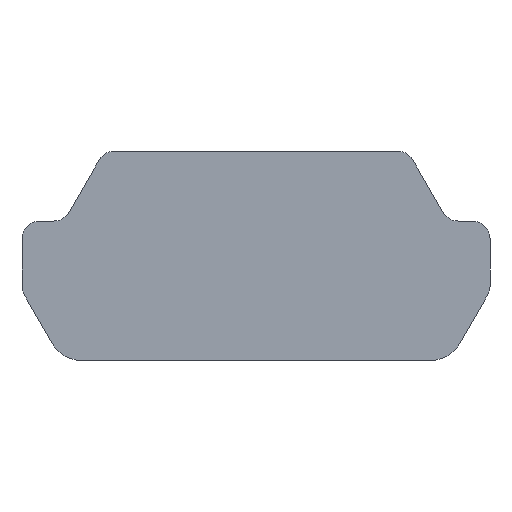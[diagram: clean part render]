
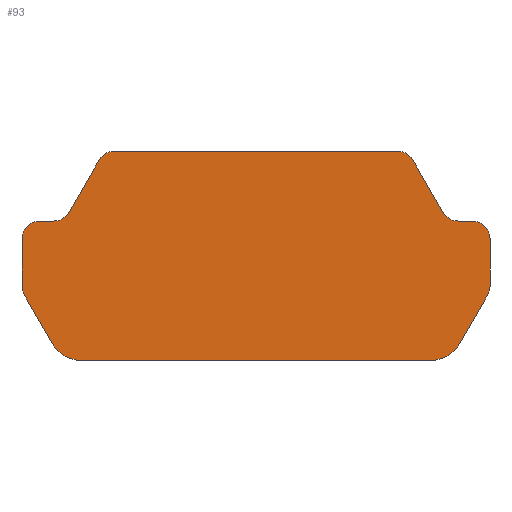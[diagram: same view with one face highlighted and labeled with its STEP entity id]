
A CAD part, front view. The second image highlights one B-rep face of the part: STEP entity #93.
In plain terms, the highlighted planar face has unit normal (0, -1, 0).
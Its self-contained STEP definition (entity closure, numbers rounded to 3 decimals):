
#93=ADVANCED_FACE('',(#198),#199,.T.);
#198=FACE_OUTER_BOUND('',#301,.T.);
#199=PLANE('',#302);
#301=EDGE_LOOP('',(#494,#495,#496,#497,#498,#499,#500,#501,#502,#503,#504,#505,#506,#507,#508,#509,#510,#511,#512,#513));
#302=AXIS2_PLACEMENT_3D('',#514,#515,#516);
#494=ORIENTED_EDGE('',*,*,#601,.F.);
#495=ORIENTED_EDGE('',*,*,#596,.F.);
#496=ORIENTED_EDGE('',*,*,#607,.F.);
#497=ORIENTED_EDGE('',*,*,#640,.F.);
#498=ORIENTED_EDGE('',*,*,#570,.F.);
#499=ORIENTED_EDGE('',*,*,#575,.F.);
#500=ORIENTED_EDGE('',*,*,#657,.F.);
#501=ORIENTED_EDGE('',*,*,#635,.F.);
#502=ORIENTED_EDGE('',*,*,#653,.F.);
#503=ORIENTED_EDGE('',*,*,#646,.F.);
#504=ORIENTED_EDGE('',*,*,#611,.F.);
#505=ORIENTED_EDGE('',*,*,#643,.F.);
#506=ORIENTED_EDGE('',*,*,#628,.F.);
#507=ORIENTED_EDGE('',*,*,#589,.F.);
#508=ORIENTED_EDGE('',*,*,#650,.F.);
#509=ORIENTED_EDGE('',*,*,#616,.F.);
#510=ORIENTED_EDGE('',*,*,#621,.F.);
#511=ORIENTED_EDGE('',*,*,#584,.F.);
#512=ORIENTED_EDGE('',*,*,#658,.F.);
#513=ORIENTED_EDGE('',*,*,#624,.F.);
#514=CARTESIAN_POINT('',(-5.789,-6.0,-3.1));
#515=DIRECTION('',(0.0,-1.0,0.0));
#516=DIRECTION('',(1.0,0.0,0.0));
#570=EDGE_CURVE('',#667,#668,#669,.T.);
#575=EDGE_CURVE('',#676,#667,#677,.T.);
#584=EDGE_CURVE('',#692,#693,#694,.T.);
#589=EDGE_CURVE('',#701,#702,#703,.T.);
#596=EDGE_CURVE('',#713,#714,#715,.T.);
#601=EDGE_CURVE('',#714,#722,#723,.T.);
#607=EDGE_CURVE('',#731,#713,#732,.T.);
#611=EDGE_CURVE('',#737,#738,#739,.T.);
#616=EDGE_CURVE('',#746,#747,#748,.T.);
#621=EDGE_CURVE('',#693,#746,#755,.T.);
#624=EDGE_CURVE('',#722,#758,#759,.T.);
#628=EDGE_CURVE('',#702,#764,#765,.T.);
#635=EDGE_CURVE('',#776,#777,#778,.T.);
#640=EDGE_CURVE('',#668,#731,#785,.T.);
#643=EDGE_CURVE('',#764,#737,#788,.T.);
#646=EDGE_CURVE('',#738,#791,#792,.T.);
#650=EDGE_CURVE('',#747,#701,#797,.T.);
#653=EDGE_CURVE('',#791,#776,#800,.T.);
#657=EDGE_CURVE('',#777,#676,#804,.T.);
#658=EDGE_CURVE('',#758,#692,#805,.T.);
#667=VERTEX_POINT('',#814);
#668=VERTEX_POINT('',#815);
#669=CIRCLE('',#816,0.5);
#676=VERTEX_POINT('',#825);
#677=LINE('',#826,#827);
#692=VERTEX_POINT('',#844);
#693=VERTEX_POINT('',#845);
#694=LINE('',#846,#847);
#701=VERTEX_POINT('',#857);
#702=VERTEX_POINT('',#858);
#703=LINE('',#859,#860);
#713=VERTEX_POINT('',#873);
#714=VERTEX_POINT('',#874);
#715=LINE('',#875,#876);
#722=VERTEX_POINT('',#886);
#723=CIRCLE('',#887,0.5);
#731=VERTEX_POINT('',#896);
#732=CIRCLE('',#897,0.5);
#737=VERTEX_POINT('',#903);
#738=VERTEX_POINT('',#904);
#739=CIRCLE('',#905,0.5);
#746=VERTEX_POINT('',#914);
#747=VERTEX_POINT('',#915);
#748=LINE('',#916,#917);
#755=CIRCLE('',#927,0.5);
#758=VERTEX_POINT('',#930);
#759=LINE('',#931,#932);
#764=VERTEX_POINT('',#939);
#765=CIRCLE('',#940,0.5);
#776=VERTEX_POINT('',#952);
#777=VERTEX_POINT('',#953);
#778=LINE('',#954,#955);
#785=LINE('',#965,#966);
#788=LINE('',#970,#971);
#791=VERTEX_POINT('',#975);
#792=LINE('',#976,#977);
#797=CIRCLE('',#984,0.5);
#800=CIRCLE('',#987,1.0);
#804=CIRCLE('',#991,1.);
#805=CIRCLE('',#992,0.5);
#814=CARTESIAN_POINT('',(-6.633,-6.0,-5.716));
#815=CARTESIAN_POINT('',(-6.7,-6.0,-5.466));
#816=AXIS2_PLACEMENT_3D('',#1000,#1001,#1002);
#825=CARTESIAN_POINT('',(-5.834,-6.0,-7.1));
#826=CARTESIAN_POINT('',(-5.834,-6.0,-7.1));
#827=VECTOR('',#1008,1.0);
#844=CARTESIAN_POINT('',(-4.057,-6.0,-1.6));
#845=CARTESIAN_POINT('',(4.057,-6.0,-1.6));
#846=CARTESIAN_POINT('',(-4.057,-6.0,-1.6));
#847=VECTOR('',#1026,1.0);
#857=CARTESIAN_POINT('',(5.789,-6.0,-3.6));
#858=CARTESIAN_POINT('',(6.2,-6.0,-3.6));
#859=CARTESIAN_POINT('',(5.789,-6.0,-3.6));
#860=VECTOR('',#1030,1.0);
#873=CARTESIAN_POINT('',(-6.2,-6.0,-3.6));
#874=CARTESIAN_POINT('',(-5.789,-6.0,-3.6));
#875=CARTESIAN_POINT('',(-6.2,-6.0,-3.6));
#876=VECTOR('',#1037,1.0);
#886=CARTESIAN_POINT('',(-5.356,-6.0,-3.35));
#887=AXIS2_PLACEMENT_3D('',#1041,#1042,#1043);
#896=CARTESIAN_POINT('',(-6.7,-6.0,-4.1));
#897=AXIS2_PLACEMENT_3D('',#1051,#1052,#1053);
#903=CARTESIAN_POINT('',(6.7,-6.0,-5.466));
#904=CARTESIAN_POINT('',(6.633,-6.0,-5.716));
#905=AXIS2_PLACEMENT_3D('',#1058,#1059,#1060);
#914=CARTESIAN_POINT('',(4.49,-6.0,-1.85));
#915=CARTESIAN_POINT('',(5.356,-6.0,-3.35));
#916=CARTESIAN_POINT('',(4.49,-6.0,-1.85));
#917=VECTOR('',#1066,1.0);
#927=AXIS2_PLACEMENT_3D('',#1070,#1071,#1072);
#930=CARTESIAN_POINT('',(-4.49,-6.0,-1.85));
#931=CARTESIAN_POINT('',(-5.356,-6.0,-3.35));
#932=VECTOR('',#1076,1.0);
#939=CARTESIAN_POINT('',(6.7,-6.0,-4.1));
#940=AXIS2_PLACEMENT_3D('',#1079,#1080,#1081);
#952=CARTESIAN_POINT('',(4.968,-6.0,-7.6));
#953=CARTESIAN_POINT('',(-4.968,-6.0,-7.6));
#954=CARTESIAN_POINT('',(4.968,-6.0,-7.6));
#955=VECTOR('',#1095,1.0);
#965=CARTESIAN_POINT('',(-6.7,-6.0,-5.466));
#966=VECTOR('',#1099,1.0);
#970=CARTESIAN_POINT('',(6.7,-6.0,-4.1));
#971=VECTOR('',#1101,1.0);
#975=CARTESIAN_POINT('',(5.834,-6.0,-7.1));
#976=CARTESIAN_POINT('',(6.633,-6.0,-5.716));
#977=VECTOR('',#1103,1.0);
#984=AXIS2_PLACEMENT_3D('',#1106,#1107,#1108);
#987=AXIS2_PLACEMENT_3D('',#1112,#1113,#1114);
#991=AXIS2_PLACEMENT_3D('',#1118,#1119,#1120);
#992=AXIS2_PLACEMENT_3D('',#1121,#1122,#1123);
#1000=CARTESIAN_POINT('',(-6.2,-6.0,-5.466));
#1001=DIRECTION('',(0.0,1.0,0.0));
#1002=DIRECTION('',(-1.0,0.0,0.0));
#1008=DIRECTION('',(-0.5,0.0,0.866));
#1026=DIRECTION('',(1.0,0.0,0.0));
#1030=DIRECTION('',(1.0,0.0,0.0));
#1037=DIRECTION('',(1.0,0.0,0.0));
#1041=CARTESIAN_POINT('',(-5.789,-6.0,-3.1));
#1042=DIRECTION('',(0.0,-1.0,0.0));
#1043=DIRECTION('',(1.0,0.0,0.0));
#1051=CARTESIAN_POINT('',(-6.2,-6.0,-4.1));
#1052=DIRECTION('',(0.0,1.0,0.0));
#1053=DIRECTION('',(-1.0,0.0,0.0));
#1058=CARTESIAN_POINT('',(6.2,-6.0,-5.466));
#1059=DIRECTION('',(0.0,1.0,0.0));
#1060=DIRECTION('',(-1.0,0.0,0.0));
#1066=DIRECTION('',(0.5,0.0,-0.866));
#1070=CARTESIAN_POINT('',(4.057,-6.0,-2.1));
#1071=DIRECTION('',(0.0,1.0,0.0));
#1072=DIRECTION('',(-1.0,0.0,0.0));
#1076=DIRECTION('',(0.5,0.0,0.866));
#1079=CARTESIAN_POINT('',(6.2,-6.0,-4.1));
#1080=DIRECTION('',(0.0,1.0,0.0));
#1081=DIRECTION('',(-1.0,0.0,0.0));
#1095=DIRECTION('',(-1.0,0.0,0.0));
#1099=DIRECTION('',(0.0,0.0,1.0));
#1101=DIRECTION('',(0.0,0.0,-1.0));
#1103=DIRECTION('',(-0.5,0.0,-0.866));
#1106=CARTESIAN_POINT('',(5.789,-6.0,-3.1));
#1107=DIRECTION('',(0.0,-1.0,0.0));
#1108=DIRECTION('',(1.0,0.0,0.0));
#1112=CARTESIAN_POINT('',(4.968,-6.0,-6.6));
#1113=DIRECTION('',(0.0,1.0,0.0));
#1114=DIRECTION('',(-1.0,0.0,0.0));
#1118=CARTESIAN_POINT('',(-4.968,-6.0,-6.6));
#1119=DIRECTION('',(0.0,1.0,0.0));
#1120=DIRECTION('',(-1.0,0.0,0.0));
#1121=CARTESIAN_POINT('',(-4.057,-6.0,-2.1));
#1122=DIRECTION('',(0.0,1.0,0.0));
#1123=DIRECTION('',(-1.0,0.0,0.0));
